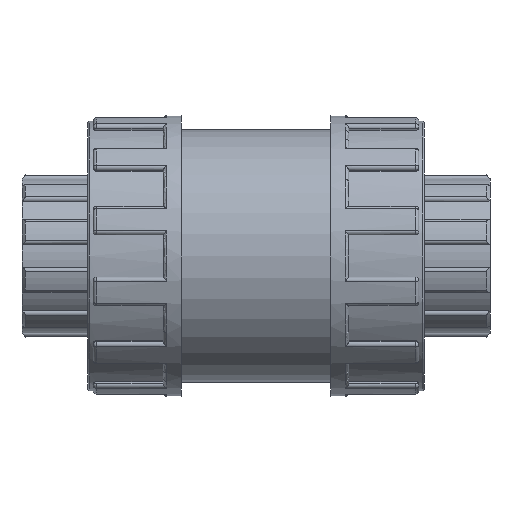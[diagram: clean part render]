
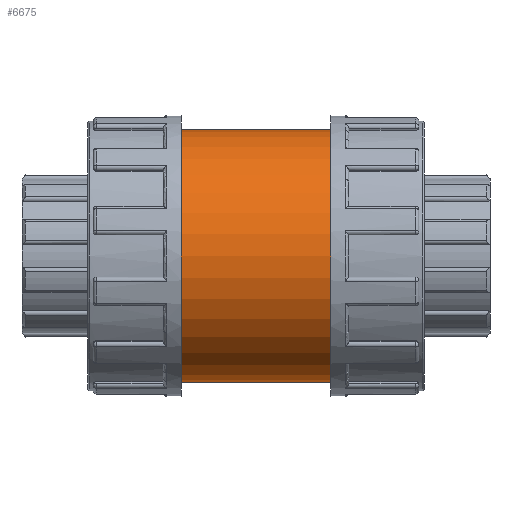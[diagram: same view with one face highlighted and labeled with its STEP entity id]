
A CAD part, front view. The second image highlights one B-rep face of the part: STEP entity #6675.
In plain terms, the highlighted cylindrical face has radius 20.25 mm (diameter 40.5 mm), a full revolution.
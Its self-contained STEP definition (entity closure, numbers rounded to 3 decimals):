
#185=FACE_BOUND('',#1099,.T.);
#186=FACE_BOUND('',#1100,.T.);
#670=FACE_OUTER_BOUND('',#1098,.T.);
#1098=EDGE_LOOP('',(#6073));
#1099=EDGE_LOOP('',(#6074));
#1100=EDGE_LOOP('',(#6075));
#1149=B_SPLINE_CURVE_WITH_KNOTS('',3,(#10735,#10736,#10737,#10738,#10739,
#10740,#10741,#10742,#10743,#10744,#10745,#10746,#10747,#10748,#10749,#10750,
#10751,#10752,#10753,#10754,#10755,#10756,#10757,#10758,#10759,#10760,#10761,
#10762,#10763,#10764,#10765,#10766,#10767,#10768),.UNSPECIFIED.,.T.,.F.,
(4,2,2,2,2,2,2,2,2,2,2,2,2,2,2,2,4),(0.,0.256,0.513,
0.769,1.026,1.282,1.538,1.795,
2.051,2.308,2.564,2.82,3.077,
3.333,3.589,3.846,4.102),
 .UNSPECIFIED.);
#2472=CIRCLE('',#7578,20.25);
#2473=CIRCLE('',#7580,20.25);
#2638=VERTEX_POINT('',#10734);
#3083=VERTEX_POINT('',#13353);
#3084=VERTEX_POINT('',#13356);
#3349=EDGE_CURVE('',#2638,#2638,#1149,.T.);
#4082=EDGE_CURVE('',#3083,#3083,#2472,.T.);
#4083=EDGE_CURVE('',#3084,#3084,#2473,.T.);
#6073=ORIENTED_EDGE('',*,*,#4082,.T.);
#6074=ORIENTED_EDGE('',*,*,#3349,.T.);
#6075=ORIENTED_EDGE('',*,*,#4083,.F.);
#6267=CYLINDRICAL_SURFACE('',#7579,20.25);
#6675=ADVANCED_FACE('',(#670,#185,#186),#6267,.T.);
#7578=AXIS2_PLACEMENT_3D('',#13354,#9749,#9750);
#7579=AXIS2_PLACEMENT_3D('',#13355,#9751,#9752);
#7580=AXIS2_PLACEMENT_3D('',#13357,#9753,#9754);
#9749=DIRECTION('center_axis',(1.,0.,0.));
#9750=DIRECTION('ref_axis',(0.,0.,-1.));
#9751=DIRECTION('center_axis',(1.,0.,0.));
#9752=DIRECTION('ref_axis',(0.,1.,0.));
#9753=DIRECTION('center_axis',(1.,0.,0.));
#9754=DIRECTION('ref_axis',(0.,0.,-1.));
#10734=CARTESIAN_POINT('',(0.,19.092,-6.75));
#10735=CARTESIAN_POINT('Ctrl Pts',(0.,19.092,
-6.75));
#10736=CARTESIAN_POINT('Ctrl Pts',(0.855,19.092,-6.75));
#10737=CARTESIAN_POINT('Ctrl Pts',(1.762,19.155,-6.578));
#10738=CARTESIAN_POINT('Ctrl Pts',(3.423,19.379,-5.887));
#10739=CARTESIAN_POINT('Ctrl Pts',(4.177,19.535,-5.369));
#10740=CARTESIAN_POINT('Ctrl Pts',(5.368,19.824,-4.177));
#10741=CARTESIAN_POINT('Ctrl Pts',(5.887,19.976,-3.423));
#10742=CARTESIAN_POINT('Ctrl Pts',(6.578,20.191,-1.762));
#10743=CARTESIAN_POINT('Ctrl Pts',(6.75,20.25,-0.854));
#10744=CARTESIAN_POINT('Ctrl Pts',(6.75,20.25,0.854));
#10745=CARTESIAN_POINT('Ctrl Pts',(6.578,20.191,1.762));
#10746=CARTESIAN_POINT('Ctrl Pts',(5.887,19.976,3.423));
#10747=CARTESIAN_POINT('Ctrl Pts',(5.368,19.824,4.177));
#10748=CARTESIAN_POINT('Ctrl Pts',(4.177,19.535,5.369));
#10749=CARTESIAN_POINT('Ctrl Pts',(3.423,19.379,5.887));
#10750=CARTESIAN_POINT('Ctrl Pts',(1.762,19.155,6.578));
#10751=CARTESIAN_POINT('Ctrl Pts',(0.855,19.092,6.75));
#10752=CARTESIAN_POINT('Ctrl Pts',(-0.855,19.092,
6.75));
#10753=CARTESIAN_POINT('Ctrl Pts',(-1.762,19.155,6.578));
#10754=CARTESIAN_POINT('Ctrl Pts',(-3.423,19.379,5.887));
#10755=CARTESIAN_POINT('Ctrl Pts',(-4.177,19.535,5.369));
#10756=CARTESIAN_POINT('Ctrl Pts',(-5.368,19.824,4.177));
#10757=CARTESIAN_POINT('Ctrl Pts',(-5.887,19.976,3.423));
#10758=CARTESIAN_POINT('Ctrl Pts',(-6.578,20.191,1.762));
#10759=CARTESIAN_POINT('Ctrl Pts',(-6.75,20.25,0.854));
#10760=CARTESIAN_POINT('Ctrl Pts',(-6.75,20.25,-0.854));
#10761=CARTESIAN_POINT('Ctrl Pts',(-6.578,20.191,-1.762));
#10762=CARTESIAN_POINT('Ctrl Pts',(-5.887,19.976,-3.423));
#10763=CARTESIAN_POINT('Ctrl Pts',(-5.368,19.824,-4.177));
#10764=CARTESIAN_POINT('Ctrl Pts',(-4.177,19.535,-5.369));
#10765=CARTESIAN_POINT('Ctrl Pts',(-3.423,19.379,-5.887));
#10766=CARTESIAN_POINT('Ctrl Pts',(-1.762,19.155,-6.578));
#10767=CARTESIAN_POINT('Ctrl Pts',(-0.855,19.092,
-6.75));
#10768=CARTESIAN_POINT('Ctrl Pts',(0.,19.092,
-6.75));
#13353=CARTESIAN_POINT('',(-12.,20.25,0.));
#13354=CARTESIAN_POINT('Origin',(-12.,0.,0.));
#13355=CARTESIAN_POINT('Origin',(0.,0.,0.));
#13356=CARTESIAN_POINT('',(12.,20.25,0.));
#13357=CARTESIAN_POINT('Origin',(12.,0.,0.));
